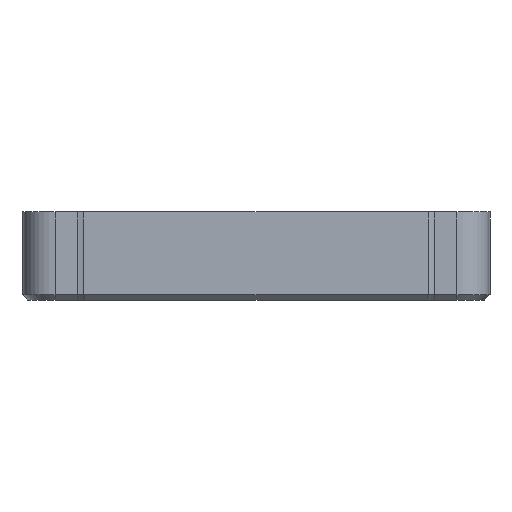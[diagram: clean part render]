
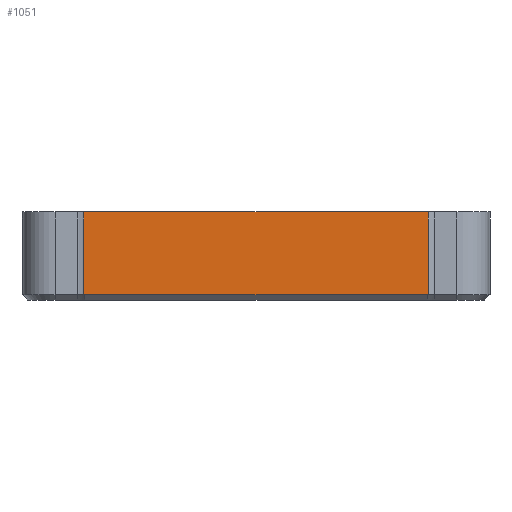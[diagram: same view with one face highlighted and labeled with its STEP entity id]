
A CAD part, front view. The second image highlights one B-rep face of the part: STEP entity #1051.
In plain terms, the highlighted planar face has unit normal (0, -1, 0).
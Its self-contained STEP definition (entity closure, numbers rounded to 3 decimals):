
#55 = ORIENTED_EDGE ( 'NONE', *, *, #252, .F. ) ;
#67 = CARTESIAN_POINT ( 'NONE',  ( 62.502, -110., 32. ) ) ;
#90 = CARTESIAN_POINT ( 'NONE',  ( -42.502, -110., 32. ) ) ;
#108 = CARTESIAN_POINT ( 'NONE',  ( -42.502, -110., 32. ) ) ;
#176 = LINE ( 'NONE', #67, #710 ) ;
#224 = EDGE_CURVE ( 'NONE', #1375, #1419, #233, .T. ) ;
#233 = LINE ( 'NONE', #1429, #1436 ) ;
#252 = EDGE_CURVE ( 'NONE', #568, #1508, #758, .T. ) ;
#263 = LINE ( 'NONE', #1226, #1626 ) ;
#334 = DIRECTION ( 'NONE',  ( 0., 0., -1. ) ) ;
#427 = EDGE_CURVE ( 'NONE', #1508, #1419, #176, .T. ) ;
#449 = AXIS2_PLACEMENT_3D ( 'NONE', #90, #499, #913 ) ;
#499 = DIRECTION ( 'NONE',  ( 0., 1., 0. ) ) ;
#568 = VERTEX_POINT ( 'NONE', #1039 ) ;
#569 = DIRECTION ( 'NONE',  ( 0., 0., -1. ) ) ;
#649 = DIRECTION ( 'NONE',  ( 1., 0., 0. ) ) ;
#710 = VECTOR ( 'NONE', #334, 1000. ) ;
#751 = EDGE_CURVE ( 'NONE', #568, #1375, #263, .T. ) ;
#758 = LINE ( 'NONE', #108, #1687 ) ;
#842 = EDGE_LOOP ( 'NONE', ( #1365, #1303, #1716, #55 ) ) ;
#869 = CARTESIAN_POINT ( 'NONE',  ( 62.502, -110., 32. ) ) ;
#888 = FACE_OUTER_BOUND ( 'NONE', #842, .T. ) ;
#913 = DIRECTION ( 'NONE',  ( 1., 0., 0. ) ) ;
#916 = DIRECTION ( 'NONE',  ( 1., 0., 0. ) ) ;
#1039 = CARTESIAN_POINT ( 'NONE',  ( -62.502, -110., 32. ) ) ;
#1051 = ADVANCED_FACE ( 'NONE', ( #888 ), #1533, .F. ) ;
#1226 = CARTESIAN_POINT ( 'NONE',  ( -62.502, -110., 32. ) ) ;
#1303 = ORIENTED_EDGE ( 'NONE', *, *, #224, .T. ) ;
#1365 = ORIENTED_EDGE ( 'NONE', *, *, #751, .T. ) ;
#1375 = VERTEX_POINT ( 'NONE', #1693 ) ;
#1407 = CARTESIAN_POINT ( 'NONE',  ( 62.502, -110., 2. ) ) ;
#1419 = VERTEX_POINT ( 'NONE', #1407 ) ;
#1429 = CARTESIAN_POINT ( 'NONE',  ( 62.502, -110., 2. ) ) ;
#1436 = VECTOR ( 'NONE', #649, 1000. ) ;
#1508 = VERTEX_POINT ( 'NONE', #869 ) ;
#1533 = PLANE ( 'NONE',  #449 ) ;
#1626 = VECTOR ( 'NONE', #569, 1000. ) ;
#1687 = VECTOR ( 'NONE', #916, 1000. ) ;
#1693 = CARTESIAN_POINT ( 'NONE',  ( -62.502, -110., 2. ) ) ;
#1716 = ORIENTED_EDGE ( 'NONE', *, *, #427, .F. ) ;
